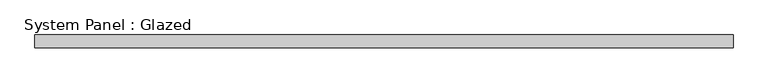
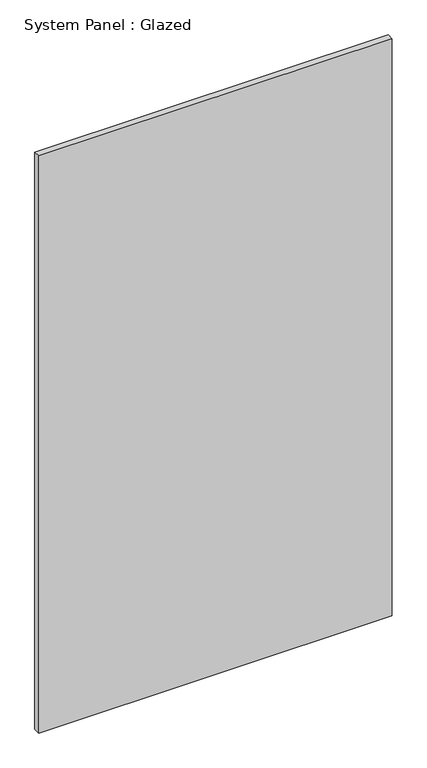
"""IFC4 building model written with IfcOpenShell, lengths in millimetres: plate geometry, System Panel : Glazed."""

from ifc_helpers import new_model, si_unit, origin, origin_with_axes, place, context, project, spatial, polyline, outline, extrude, source, transform, mapped, element, save


def system_panel_glazed_50cfc5fc(model_context):
    return source(origin(), model_context, "Body", "SweptSolid", [
        extrude(outline(polyline([(673.7000001, -49.5), (-673.7000001, -49.5), (-673.7000001, -24.5), (673.7000001, -24.5), (673.7000001, -49.5)])), origin_with_axes(), (0.0, 0.0, 1.0), 2325.0),
    ])


if __name__ == "__main__":
    model = new_model("IFC4")
    model_context = context("Model", 3, world=origin())
    ifc_project = project(units=[si_unit("LENGTHUNIT", "METRE", prefix="MILLI")], contexts=[model_context])
    site = spatial("IfcSite", under=ifc_project)
    building = spatial("IfcBuilding", under=site)
    placement = place(None, origin())
    system_panel_glazed_shape = system_panel_glazed_50cfc5fc(model_context)
    element("IfcPlate", 1, ObjectType="System Panel : Glazed", at=placement, inside=building, context=model_context, shape_type="MappedRepresentation", body=[
        mapped(system_panel_glazed_shape, transform((0.0, 0.0, 0.0), x_axis=(1.0, 0.0, 0.0), y_axis=(0.0, 1.0, 0.0), z_axis=(0.0, 0.0, 1.0))),
    ])
    save(model, "model.ifc")
